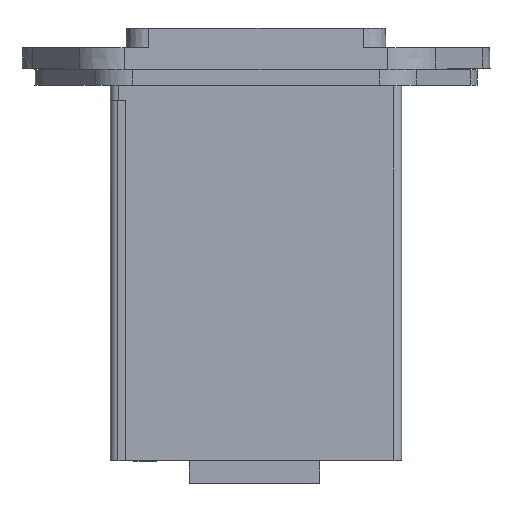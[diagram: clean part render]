
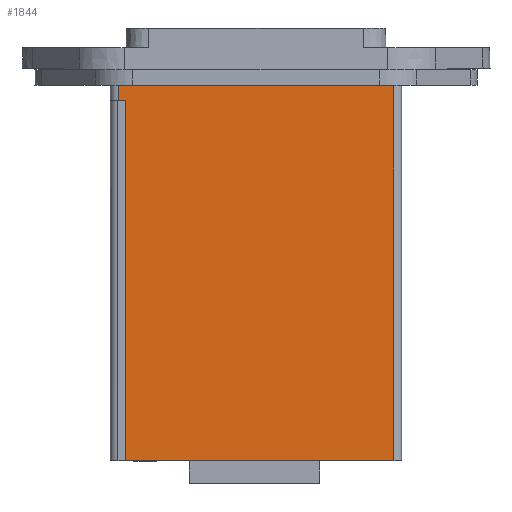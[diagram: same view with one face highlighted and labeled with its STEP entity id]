
A CAD part, left-side view. The second image highlights one B-rep face of the part: STEP entity #1844.
In plain terms, the highlighted planar face has unit normal (-1, 0, 0).
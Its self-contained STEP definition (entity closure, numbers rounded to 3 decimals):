
#104 = FACE_OUTER_BOUND ( 'NONE', #999, .T. ) ;
#142 = EDGE_CURVE ( 'NONE', #3126, #547, #900, .T. ) ;
#161 = VERTEX_POINT ( 'NONE', #3976 ) ;
#257 = CARTESIAN_POINT ( 'NONE',  ( -290.018, 49.928, 231.846 ) ) ;
#402 = VECTOR ( 'NONE', #3058, 1000. ) ;
#413 = ORIENTED_EDGE ( 'NONE', *, *, #142, .T. ) ;
#447 = CARTESIAN_POINT ( 'NONE',  ( -290.018, 49.428, 233.846 ) ) ;
#479 = VECTOR ( 'NONE', #2866, 1000. ) ;
#504 = VERTEX_POINT ( 'NONE', #3686 ) ;
#547 = VERTEX_POINT ( 'NONE', #1232 ) ;
#564 = CARTESIAN_POINT ( 'NONE',  ( -290.018, 31.928, 233.846 ) ) ;
#584 = VERTEX_POINT ( 'NONE', #610 ) ;
#608 = LINE ( 'NONE', #2404, #402 ) ;
#610 = CARTESIAN_POINT ( 'NONE',  ( -290.018, 49.928, 233.846 ) ) ;
#900 = LINE ( 'NONE', #564, #1553 ) ;
#967 = DIRECTION ( 'NONE',  ( 0., -1., 0. ) ) ;
#999 = EDGE_LOOP ( 'NONE', ( #1231, #2777, #1441, #413, #2957, #1316 ) ) ;
#1231 = ORIENTED_EDGE ( 'NONE', *, *, #2856, .T. ) ;
#1232 = CARTESIAN_POINT ( 'NONE',  ( -290.018, 31.928, 233.846 ) ) ;
#1311 = LINE ( 'NONE', #1955, #3777 ) ;
#1316 = ORIENTED_EDGE ( 'NONE', *, *, #2472, .T. ) ;
#1322 = PLANE ( 'NONE',  #3509 ) ;
#1379 = VECTOR ( 'NONE', #2704, 1000. ) ;
#1441 = ORIENTED_EDGE ( 'NONE', *, *, #3601, .T. ) ;
#1553 = VECTOR ( 'NONE', #3018, 1000. ) ;
#1593 = DIRECTION ( 'NONE',  ( 0., -1., 0. ) ) ;
#1844 = ADVANCED_FACE ( 'NONE', ( #104 ), #1322, .F. ) ;
#1955 = CARTESIAN_POINT ( 'NONE',  ( -290.018, 31.428, 233.846 ) ) ;
#2051 = LINE ( 'NONE', #3673, #1379 ) ;
#2296 = EDGE_CURVE ( 'NONE', #161, #504, #3507, .T. ) ;
#2404 = CARTESIAN_POINT ( 'NONE',  ( -290.018, 50.428, 231.846 ) ) ;
#2472 = EDGE_CURVE ( 'NONE', #584, #2483, #2051, .T. ) ;
#2483 = VERTEX_POINT ( 'NONE', #257 ) ;
#2533 = LINE ( 'NONE', #3765, #3195 ) ;
#2561 = CARTESIAN_POINT ( 'NONE',  ( -290.018, 31.428, 233.846 ) ) ;
#2704 = DIRECTION ( 'NONE',  ( 0., 0., -1. ) ) ;
#2777 = ORIENTED_EDGE ( 'NONE', *, *, #2296, .T. ) ;
#2856 = EDGE_CURVE ( 'NONE', #2483, #161, #608, .T. ) ;
#2866 = DIRECTION ( 'NONE',  ( 0., 0., -1. ) ) ;
#2957 = ORIENTED_EDGE ( 'NONE', *, *, #3989, .F. ) ;
#2986 = CARTESIAN_POINT ( 'NONE',  ( -290.018, 31.928, 208.346 ) ) ;
#3018 = DIRECTION ( 'NONE',  ( 0., 0., 1. ) ) ;
#3058 = DIRECTION ( 'NONE',  ( 0., -1., 0. ) ) ;
#3126 = VERTEX_POINT ( 'NONE', #2986 ) ;
#3195 = VECTOR ( 'NONE', #1593, 1000. ) ;
#3407 = DIRECTION ( 'NONE',  ( 0., 1., 0. ) ) ;
#3507 = LINE ( 'NONE', #447, #479 ) ;
#3509 = AXIS2_PLACEMENT_3D ( 'NONE', #2561, #3796, #3407 ) ;
#3601 = EDGE_CURVE ( 'NONE', #504, #3126, #2533, .T. ) ;
#3673 = CARTESIAN_POINT ( 'NONE',  ( -290.018, 49.928, 231.846 ) ) ;
#3686 = CARTESIAN_POINT ( 'NONE',  ( -290.018, 49.428, 208.346 ) ) ;
#3765 = CARTESIAN_POINT ( 'NONE',  ( -290.018, 31.428, 208.346 ) ) ;
#3777 = VECTOR ( 'NONE', #967, 1000. ) ;
#3796 = DIRECTION ( 'NONE',  ( 1., 0., 0. ) ) ;
#3976 = CARTESIAN_POINT ( 'NONE',  ( -290.018, 49.428, 231.846 ) ) ;
#3989 = EDGE_CURVE ( 'NONE', #584, #547, #1311, .T. ) ;
